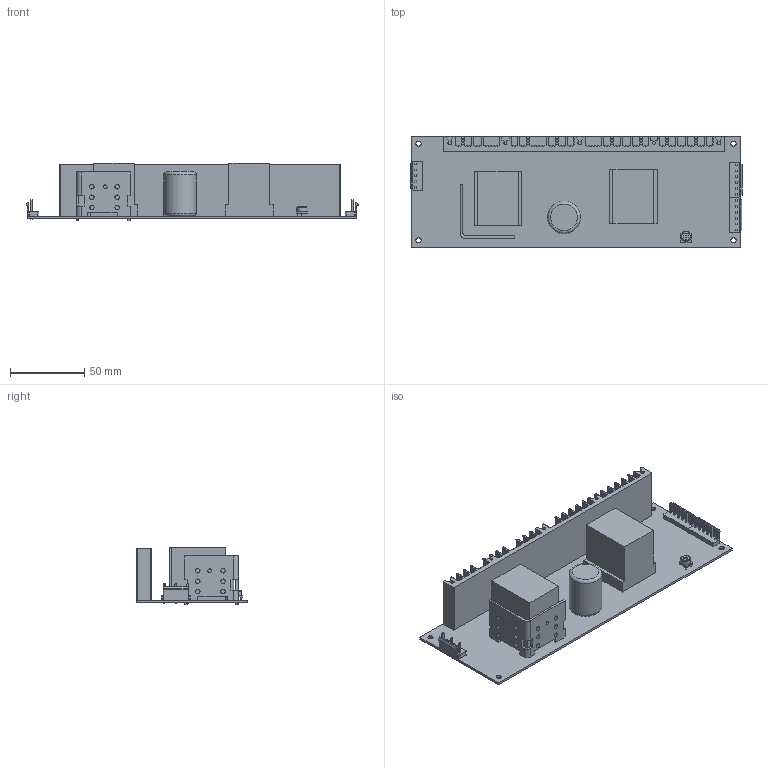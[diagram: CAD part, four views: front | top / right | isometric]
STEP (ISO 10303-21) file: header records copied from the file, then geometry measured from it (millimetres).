
FILE_DESCRIPTION((''),'2;1');
FILE_NAME('W:\mechanical\機構工程圖\3D圖檔\3D Outline-2020\已完成待審核\LPP-150.stp','2020-06-18T11:52:34',('shirley'),(''),'Autodesk Inventor 2010','Autodesk Inventor 2010','');
FILE_SCHEMA(('AUTOMOTIVE_DESIGN { 1 0 10303 214 1 1 1 1 }'));
Length unit declared in the file: millimetre
Products named in the file (10): LPP-150; PCB; HS1; HS2; JS-1120-05N2,4; JS-1120-06; JS-1120-07_CPY; VR-1; C5; T1
Assembly tree (10 placements, depth 2):
  LPP-150
    PCB
    HS1
    HS2
    JS-1120-05N2,4
    JS-1120-06
    JS-1120-07_CPY
    VR-1
    C5
    T1  x2
Bounding box: 223.38 x 75 x 39 mm (x, y, z)
Volume: 152227.5 mm3; surface area: 86558.7 mm2
Topology: 10 solids, 10 shells, 1217 faces, 3755 edges, 2804 vertices
Faces by surface type: plane 1070, cylinder 142, torus 5
Full cylindrical faces by diameter (mm): 0.8 x3, 2.5 x2, 3 x12, 3.5 x4, 6.747 x1, 22 x1
Entity records: 42186 total; most frequent: CARTESIAN_POINT 7648, ORIENTED_EDGE 6930, DIRECTION 6471, EDGE_CURVE 3465, VECTOR 3377, LINE 3377, VERTEX_POINT 2324, AXIS2_PLACEMENT_3D 1547
